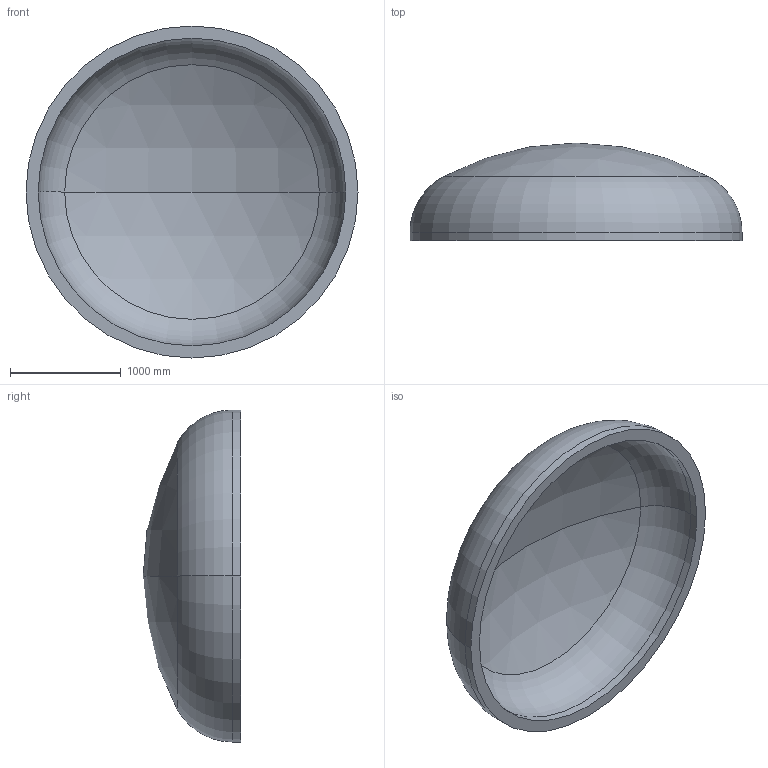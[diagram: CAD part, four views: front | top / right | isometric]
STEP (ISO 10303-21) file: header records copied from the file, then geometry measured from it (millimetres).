
FILE_DESCRIPTION (( 'STEP AP203' ), '1' );
FILE_NAME ('DIN 28013 Korbbogenform_-_Boden DIN 28013 - 3000 x 75 - I - s=110.step', '2016-07-01T18:09:57', ( '' ), ( '' ), 'SwSTEP 2.0', 'SolidWorks 2013', '' );
FILE_SCHEMA (( 'CONFIG_CONTROL_DESIGN' ));
Length unit declared in the file: millimetre
Products named in the file (1): DIN 28013 Korbbogenform_-_Boden DIN 28013 - 3000 x 75 - I - s=110
Bounding box: 3000 x 882.44 x 3000 mm (x, y, z)
Volume: 1100792236.5 mm3; surface area: 21038452.3 mm2
Topology: 1 solids, 1 shells, 13 faces, 24 edges, 14 vertices
Faces by surface type: torus 4, cylinder 4, sphere 4, plane 1
Entity records: 407 total; most frequent: DIRECTION 72, CARTESIAN_POINT 52, ORIENTED_EDGE 48, AXIS2_PLACEMENT_3D 34, EDGE_CURVE 24, CIRCLE 20, EDGE_LOOP 14, VERTEX_POINT 14
